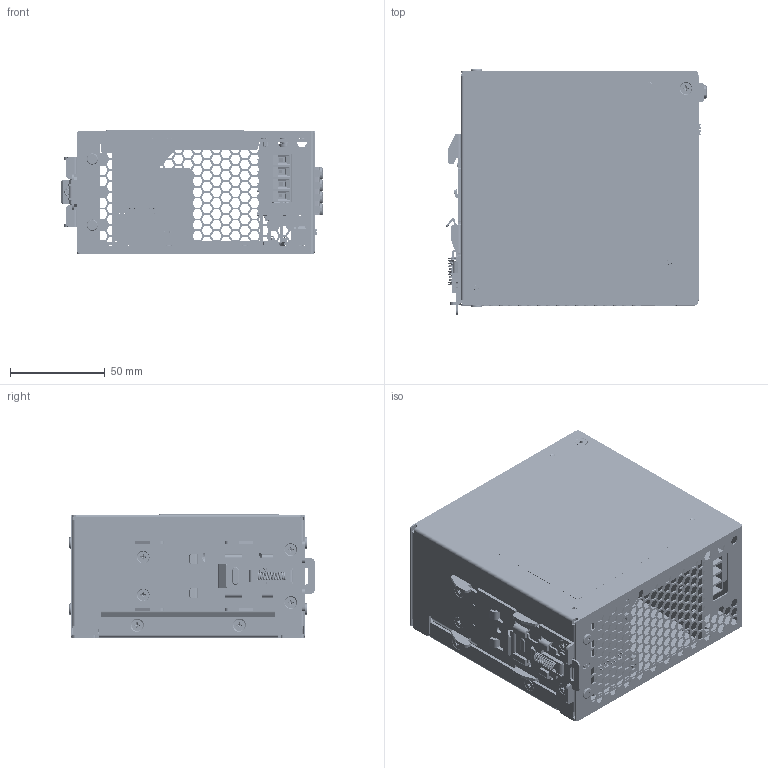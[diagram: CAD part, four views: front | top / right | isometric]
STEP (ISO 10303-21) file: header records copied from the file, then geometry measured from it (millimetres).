
FILE_DESCRIPTION((''),'2;1');
FILE_NAME('DRF-24V480W3GBA__ASM','2022-05-14T',('Nut.Phor'),(''),'CREO PARAMETRIC BY PTC INC, 2015080','CREO PARAMETRIC BY PTC INC, 2015080','');
FILE_SCHEMA(('CONFIG_CONTROL_DESIGN'));
Products named in the file (84): 337555910000_8_1_1; 337555910000_8_2_1; 337555910000_8_3_1; 337555910000_8_ASM_1_ASM; 337555910000-STUD_6-32_3MM_10_1; 337555910000-STUD_6-32_NORMAL_2; 337555910000_ASM_36_ASM_1_ASM; 3240030TPS01_18_1_1; 3240030TPS01_18_2_1; 3240030TPS01_18_3_1; 3240030TPS01_18_ASM_1_ASM; ADC-127_3_1; ADC-180_HSK2MM_10_1; 334821140000_BODY_2_1; 334821140000_A_C098_CIM_1_1; 334821140000_ASM_1_ASM_1_ASM; HSK1_2MM_ASM_33_ASM_2_ASM; 31052637XX_1_1; ADC-128_16_1; LAYOUT_ADC-128_2_1; LAYOUT_ADC-179_153_1; 4PIN_1_3_1; KP04000306DAG_ASM_16_ASM_1_ASM; 3467587200_BUS_SPCC_2_1; 3074843834_A2003WR0-1AGX2PA-6T_; EE_F2_2_1; EE_F3_2_1; ASSY-ADC-179_ASM_455_ASM_5_ASM; ADC-131_27_1; LAYOUT_ADC-188_2_1; 307195156G_A1_1_1; 307195156G_A2_AF0_1_1; 307195156G_CN62_ASM_1_ASM_1_ASM; 3460375301-V3_2_1; 3470422400_2_1; 3074842634_A2003WR0-1AGX6PA-6T_; CH81-TH2_86__ANY_1_2_1; CH81-TH1_86__ANY_1_2_1; CH81-TH1_86__ANY_1_AF0_2_1; CH81_BASE_08P_ANY_1_2_1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
Assembly tree (120 placements, depth 7):
  DRF-24V480W3GBA__ASM
    337555910000_ASM_36_ASM_1_ASM
      337555910000_8_ASM_1_ASM
        337555910000_8_1_1
        337555910000_8_2_1
        337555910000_8_3_1
      337555910000-STUD_6-32_3MM_10_1  x2
      337555910000-STUD_6-32_NORMAL_2
    3240030TPS01_18_ASM_1_ASM
      3240030TPS01_18_1_1
      3240030TPS01_18_2_1
      3240030TPS01_18_3_1
    ASSY_ADC-180_ASM_189_ASM_3_ASM
      ADC-127_3_1
      ADC-180_HSK2MM_10_1
      HSK1_2MM_ASM_33_ASM_2_ASM
        334821140000_ASM_1_ASM_1_ASM
          334821140000_BODY_2_1
          334821140000_A_C098_CIM_1_1
      31052637XX_1_1
      ASSY-ADC-179_ASM_455_ASM_5_ASM
        ADC-128_16_1
        LAYOUT_ADC-128_2_1
        LAYOUT_ADC-179_153_1
        KP04000306DAG_ASM_16_ASM_1_ASM
          4PIN_1_3_1
        3467587200_BUS_SPCC_2_1  x2
        3074843834_A2003WR0-1AGX2PA-6T_  x3
        EE_F2_2_1
        EE_F3_2_1  x2
      ASSY_ADC-188_ASM_27_ASM_1_ASM
        ADC-131_27_1
        LAYOUT_ADC-188_2_1
        307195156G_CN62_ASM_1_ASM_1_ASM
          307195156G_A1_1_1
          307195156G_A2_AF0_1_1
        3460375301-V3_2_1
        3470422400_2_1  x2
        3074842634_A2003WR0-1AGX6PA-6T_
        CH81082HA86-NH-20211222_ASM_NEW_ASM
          CH81082HA86-NH-20211222_ASM_AF0_ASM
            CH81082HA86-NH-20211222_ANY_AF0_ASM
              CH81-TH2_86__ANY_1_2_1  x4
              CH81-TH1_86__ANY_1_2_1  x3
              CH81-TH1_86__ANY_1_AF0_2_1
              CH81_BASE_08P_ANY_1_2_1
    3103200600_6-32_L6_1_ASM_1_ASM  x3
      3103200600_6-32_L6_1_1_1
      3103200600_6-32_L6_1_2_1
    3100000600-1_27_1  x12
    ASSY_MAIN-BOARD_ASM_647_ASM_6_ASM
      PWB_MAIN-BOARD_70_1
      3461381401_1_1  x4
      LED_GRN_1_1
      RES_VR_0604103518_1_1
      307608646G_ASM_1_ASM_1_ASM
        307608646G_A1_1_1
        307608646G_A2_1_1
        307608646G_A3_1_1
      ASSY-ADC-163_ASM_443_ASM_5_ASM
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Bounding box: 138.04 x 130 x 65.05 mm (x, y, z)
Volume: 172755.6 mm3; surface area: 121787.9 mm2
Topology: 96 solids, 97 shells, 13294 faces, 36293 edges, 23431 vertices
Faces by surface type: plane 8898, cylinder 2625, extrusion 761, bspline 416, cone 332, torus 246, sphere 16
Entity records: 451398 total; most frequent: CARTESIAN_POINT 98356, ORIENTED_EDGE 55752, DIRECTION 48875, EDGE_CURVE 27876, PRESENTATION_STYLE_ASSIGNMENT 24099, VECTOR 22261, STYLED_ITEM 21941, CURVE_STYLE 21615
